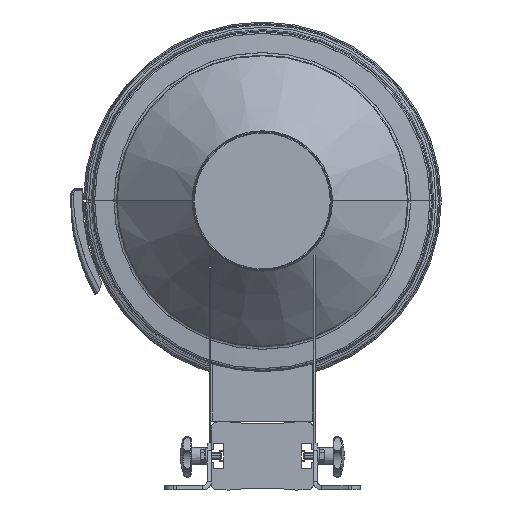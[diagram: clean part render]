
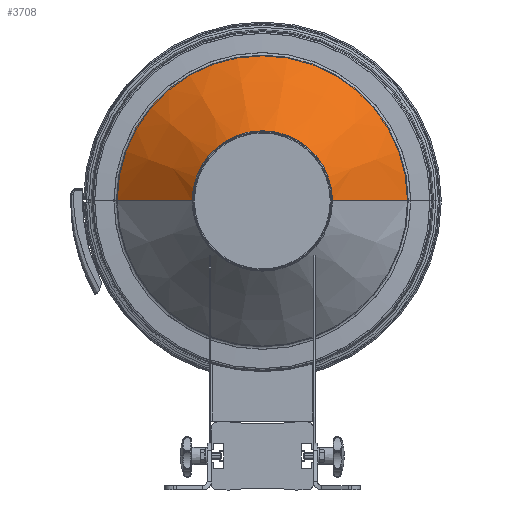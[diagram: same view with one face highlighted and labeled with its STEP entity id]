
A CAD part, front view. The second image highlights one B-rep face of the part: STEP entity #3708.
In plain terms, the highlighted conical face has half-angle 45 degrees and reference radius 127.091 mm.
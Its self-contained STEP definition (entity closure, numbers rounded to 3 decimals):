
#2848=DIRECTION('',(0.707,0.707,0.));
#2849=VECTOR('',#2848,126.006);
#2850=CARTESIAN_POINT('',(82.541,-125.204,
0.));
#2851=LINE('',#2850,#2849);
#2855=DIRECTION('',(-0.707,0.707,0.));
#2856=VECTOR('',#2855,126.006);
#2857=CARTESIAN_POINT('',(-82.541,-125.204,
0.));
#2858=LINE('',#2857,#2856);
#2870=CARTESIAN_POINT('',(0.,-125.204,0.));
#2871=DIRECTION('',(0.,-1.,0.));
#2872=DIRECTION('',(1.,0.,0.));
#2873=AXIS2_PLACEMENT_3D('',#2870,#2871,#2872);
#2878=CARTESIAN_POINT('',(0.,-36.104,0.));
#2879=DIRECTION('',(0.,-1.,0.));
#2880=DIRECTION('',(1.,0.,0.));
#2881=AXIS2_PLACEMENT_3D('',#2878,#2879,#2880);
#3096=CARTESIAN_POINT('',(82.541,-125.204,
0.));
#3097=CARTESIAN_POINT('',(171.641,-36.104,
0.));
#3098=VERTEX_POINT('',#3096);
#3099=VERTEX_POINT('',#3097);
#3124=CARTESIAN_POINT('',(-82.541,-125.204,
0.));
#3125=CARTESIAN_POINT('',(-171.641,-36.104,
0.));
#3126=VERTEX_POINT('',#3124);
#3127=VERTEX_POINT('',#3125);
#3696=CARTESIAN_POINT('',(0.,-80.654,0.));
#3697=DIRECTION('',(0.,1.,0.));
#3698=DIRECTION('',(1.,0.,0.));
#3699=AXIS2_PLACEMENT_3D('',#3696,#3697,#3698);
#3700=CONICAL_SURFACE('',#3699,127.091,45.);
#3701=ORIENTED_EDGE('',*,*,#3679,.F.);
#3702=ORIENTED_EDGE('',*,*,#3620,.T.);
#3703=ORIENTED_EDGE('',*,*,#3683,.T.);
#3705=ORIENTED_EDGE('',*,*,#3704,.F.);
#3706=EDGE_LOOP('',(#3701,#3702,#3703,#3705));
#3707=FACE_OUTER_BOUND('',#3706,.F.);
#2874=CIRCLE('',#2873,82.541);
#2882=CIRCLE('',#2881,171.641);
#3620=EDGE_CURVE('',#3098,#3126,#2874,.T.);
#3679=EDGE_CURVE('',#3098,#3099,#2851,.T.);
#3683=EDGE_CURVE('',#3126,#3127,#2858,.T.);
#3704=EDGE_CURVE('',#3099,#3127,#2882,.T.);
#3708=ADVANCED_FACE('',(#3707),#3700,.T.);
